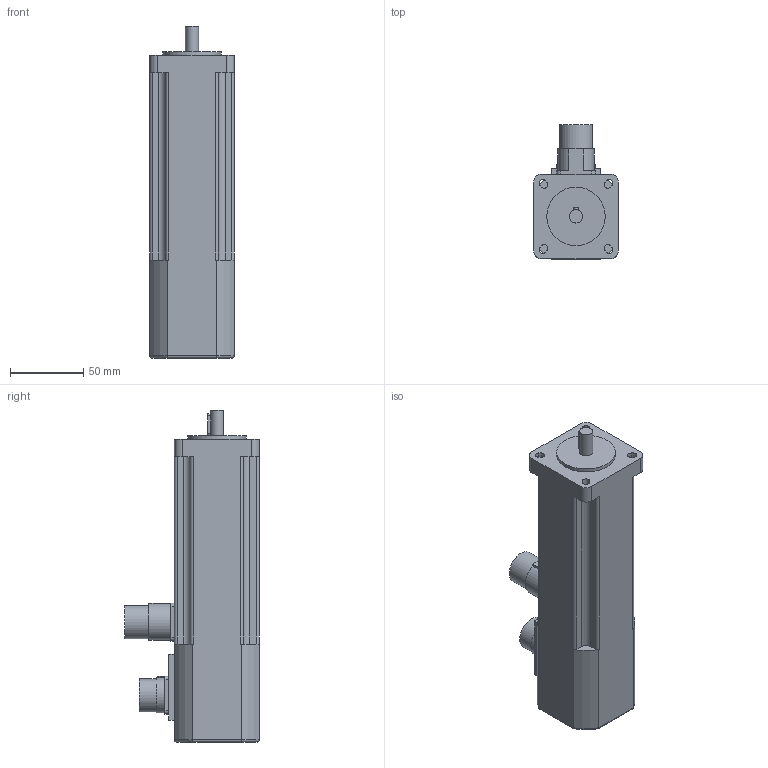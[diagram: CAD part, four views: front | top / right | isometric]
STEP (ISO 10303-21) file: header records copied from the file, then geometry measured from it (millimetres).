
FILE_DESCRIPTION(/* description */ (''),/* implementation_level */ '2;1');
FILE_NAME(/* name */ '\\Lafnas01\disegni\Archivi Lafert\3D\CAD 3D\MODELLI\Assiemi clienti\Serad\Modelli 3D Serad\B28I\Encoder\Enc With Brake\B28D6Ixx4BRx0033.ipt.stp',/* time_stamp */ '2015-09-07T10:47:57+02:00',/* author */ ('Pastrello Ylenia'),/* organization */ (''),/* preprocessor_version */ 'ST-DEVELOPER v15.6',/* originating_system */ 'Autodesk Inventor 2015',/* authorisation */ '');
FILE_SCHEMA (('AUTOMOTIVE_DESIGN { 1 0 10303 214 3 1 1 }'));
Length unit declared in the file: millimetre
Products named in the file (1): B28D6Ixx4BRx0033
Bounding box: 58 x 92 x 227 mm (x, y, z)
Volume: 652226 mm3; surface area: 57964.9 mm2
Topology: 1 solids, 1 shells, 138 faces, 368 edges, 239 vertices
Faces by surface type: plane 76, cylinder 58, torus 4
Full cylindrical faces by diameter (mm): 9 x1, 22.7 x2, 24 x1, 40 x1
Entity records: 4389 total; most frequent: CARTESIAN_POINT 872, DIRECTION 741, ORIENTED_EDGE 720, EDGE_CURVE 359, AXIS2_PLACEMENT_3D 255, VERTEX_POINT 236, LINE 231, VECTOR 231
